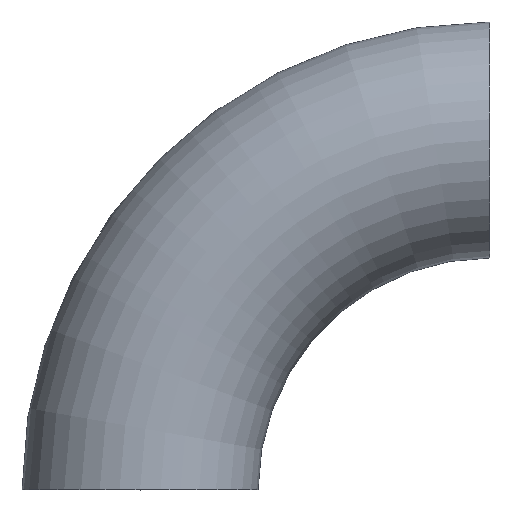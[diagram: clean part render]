
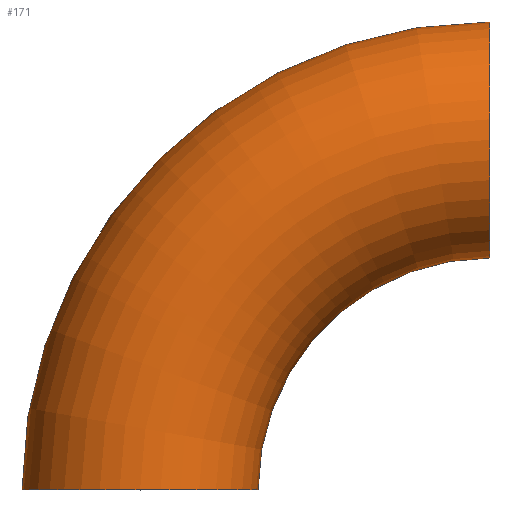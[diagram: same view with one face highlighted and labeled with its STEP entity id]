
A CAD part, top view. The second image highlights one B-rep face of the part: STEP entity #171.
In plain terms, the highlighted toroidal (fillet/blend) face has major radius 750 mm and minor radius 253 mm.
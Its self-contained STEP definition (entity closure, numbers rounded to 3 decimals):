
#11 = DIRECTION ( 'NONE',  ( 1., 0., 0. ) ) ;
#15 = CARTESIAN_POINT ( 'NONE',  ( 750., 0., 0. ) ) ;
#28 = FACE_OUTER_BOUND ( 'NONE', #139, .T. ) ;
#29 = VERTEX_POINT ( 'NONE', #250 ) ;
#41 = ORIENTED_EDGE ( 'NONE', *, *, #183, .F. ) ;
#74 = DIRECTION ( 'NONE',  ( 1., 0., 0. ) ) ;
#78 = CARTESIAN_POINT ( 'NONE',  ( -253., 0., 0. ) ) ;
#79 = CARTESIAN_POINT ( 'NONE',  ( 750., 497., 0. ) ) ;
#81 = TOROIDAL_SURFACE ( 'NONE', #157, 750., 253. ) ;
#86 = CARTESIAN_POINT ( 'NONE',  ( 0., 0., 0. ) ) ;
#92 = DIRECTION ( 'NONE',  ( 0., 0., 1. ) ) ;
#95 = ORIENTED_EDGE ( 'NONE', *, *, #224, .T. ) ;
#108 = AXIS2_PLACEMENT_3D ( 'NONE', #166, #74, #92 ) ;
#109 = DIRECTION ( 'NONE',  ( 0., 0., 1. ) ) ;
#111 = DIRECTION ( 'NONE',  ( 0., 0., 1. ) ) ;
#123 = DIRECTION ( 'NONE',  ( 1., 0., 0. ) ) ;
#125 = EDGE_CURVE ( 'NONE', #156, #242, #181, .T. ) ;
#131 = AXIS2_PLACEMENT_3D ( 'NONE', #15, #248, #123 ) ;
#139 = EDGE_LOOP ( 'NONE', ( #158, #253, #95, #41 ) ) ;
#145 = AXIS2_PLACEMENT_3D ( 'NONE', #193, #111, #11 ) ;
#146 = EDGE_CURVE ( 'NONE', #156, #247, #236, .T. ) ;
#156 = VERTEX_POINT ( 'NONE', #226 ) ;
#157 = AXIS2_PLACEMENT_3D ( 'NONE', #214, #232, #194 ) ;
#158 = ORIENTED_EDGE ( 'NONE', *, *, #125, .F. ) ;
#166 = CARTESIAN_POINT ( 'NONE',  ( 750., 750., 0. ) ) ;
#169 = CIRCLE ( 'NONE', #223, 253. ) ;
#171 = ADVANCED_FACE ( 'NONE', ( #28 ), #81, .T. ) ;
#174 = CIRCLE ( 'NONE', #145, 497. ) ;
#181 = CIRCLE ( 'NONE', #108, 253. ) ;
#183 = EDGE_CURVE ( 'NONE', #242, #29, #174, .T. ) ;
#193 = CARTESIAN_POINT ( 'NONE',  ( 750., 0., 0. ) ) ;
#194 = DIRECTION ( 'NONE',  ( 1., 0., 0. ) ) ;
#214 = CARTESIAN_POINT ( 'NONE',  ( 750., 0., 0. ) ) ;
#222 = DIRECTION ( 'NONE',  ( 0., 1., 0. ) ) ;
#223 = AXIS2_PLACEMENT_3D ( 'NONE', #86, #222, #109 ) ;
#224 = EDGE_CURVE ( 'NONE', #247, #29, #169, .T. ) ;
#226 = CARTESIAN_POINT ( 'NONE',  ( 750., 1003., 0. ) ) ;
#232 = DIRECTION ( 'NONE',  ( 0., 0., 1. ) ) ;
#236 = CIRCLE ( 'NONE', #131, 1003. ) ;
#242 = VERTEX_POINT ( 'NONE', #79 ) ;
#247 = VERTEX_POINT ( 'NONE', #78 ) ;
#248 = DIRECTION ( 'NONE',  ( 0., 0., 1. ) ) ;
#250 = CARTESIAN_POINT ( 'NONE',  ( 253., 0., 0. ) ) ;
#253 = ORIENTED_EDGE ( 'NONE', *, *, #146, .T. ) ;
